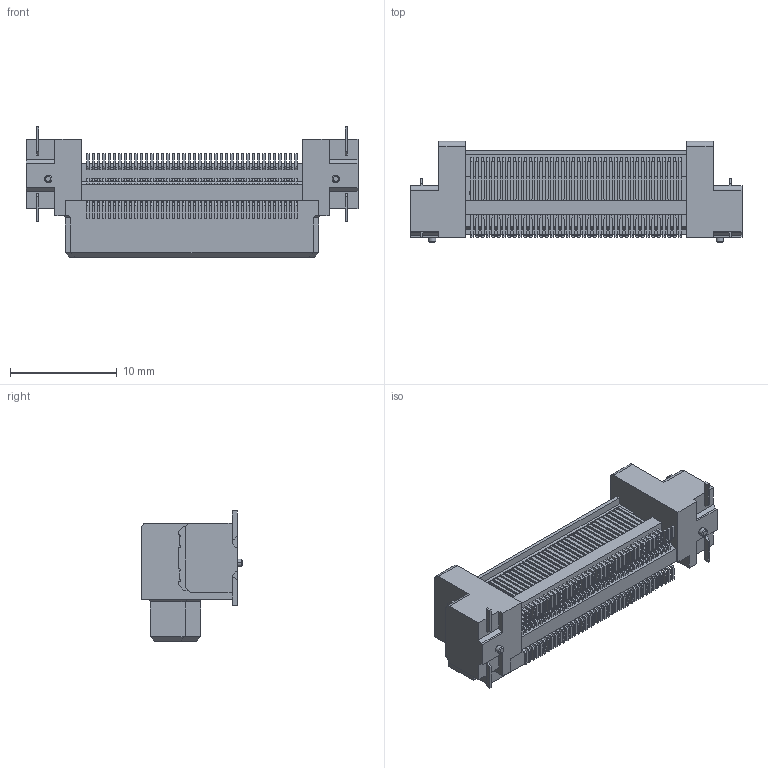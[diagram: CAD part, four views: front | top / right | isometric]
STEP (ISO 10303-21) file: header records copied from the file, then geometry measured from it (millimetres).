
FILE_DESCRIPTION(('Creo Elements/Direct Modeling STEP Export'),'2;1');
FILE_NAME('DT11-080L.stp','2018-11-12T16:52:57',(''),(''),'Creo Elements/Direct Modeling STEP processor for AP214 (Solid Model)','Creo Elements/Direct Modeling 19.0F 14-Feb-2017 (C) Parametric Technology GmbH','');
FILE_SCHEMA(('AUTOMOTIVE_DESIGN { 1 0 10303 214 1 1 1 1 }'));
Products named in the file (2): DT11-080L_model
Assembly tree (1 placements, depth 2):
  DT11-080L_model
    DT11-080L_model
Bounding box: 31.12 x 9.5 x 12.2 mm (x, y, z)
Volume: 1313.6 mm3; surface area: 1938.6 mm2
Topology: 1 solids, 1 shells, 4030 faces, 11316 edges, 7372 vertices
Faces by surface type: plane 3370, cylinder 656, cone 4
Entity records: 124367 total; most frequent: ORIENTED_EDGE 22632, CARTESIAN_POINT 21783, DIRECTION 19341, EDGE_CURVE 11316, VECTOR 9481, LINE 9481, VERTEX_POINT 7372, AXIS2_PLACEMENT_3D 4930
